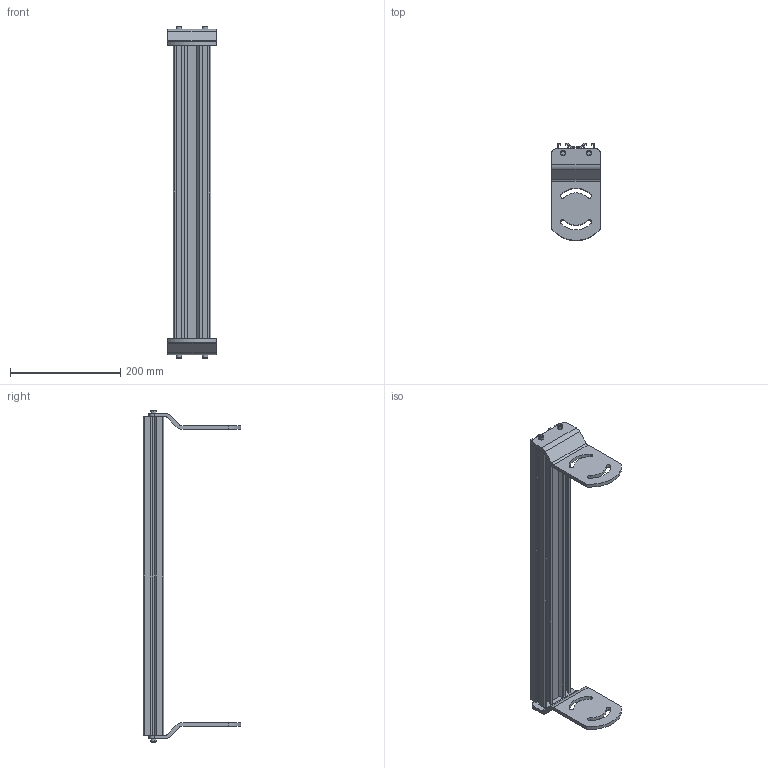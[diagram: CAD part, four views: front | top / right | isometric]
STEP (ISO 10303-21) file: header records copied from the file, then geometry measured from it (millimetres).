
FILE_DESCRIPTION((''),'2;1');
FILE_NAME('39MCM20-1_ASM','2023-03-01T',('jenni.wallner'),(''),'PRO/ENGINEER BY PARAMETRIC TECHNOLOGY CORPORATION, 2012420','PRO/ENGINEER BY PARAMETRIC TECHNOLOGY CORPORATION, 2012420','');
FILE_SCHEMA(('CONFIG_CONTROL_DESIGN'));
Length unit declared in the file: inch
Products named in the file (5): 710210-LLLLL_710210-02279; 708180P_CAE; 300825M_CAE; ASM0001_ASM; 39MCM20-1_ASM
Assembly tree (8 placements, depth 3):
  39MCM20-1_ASM
    ASM0001_ASM
      710210-LLLLL_710210-02279
      708180P_CAE  x4
      300825M_CAE  x2
Bounding box: 88.93 x 176.46 x 603.57 mm (x, y, z)
Volume: 591470.7 mm3; surface area: 398020.8 mm2
Topology: 7 solids, 7 shells, 274 faces, 784 edges, 532 vertices
Faces by surface type: plane 128, cylinder 126, cone 20
Entity records: 5951 total; most frequent: CARTESIAN_POINT 1126, DIRECTION 1004, ORIENTED_EDGE 990, EDGE_CURVE 495, AXIS2_PLACEMENT_3D 342, VERTEX_POINT 334, VECTOR 320, LINE 320
